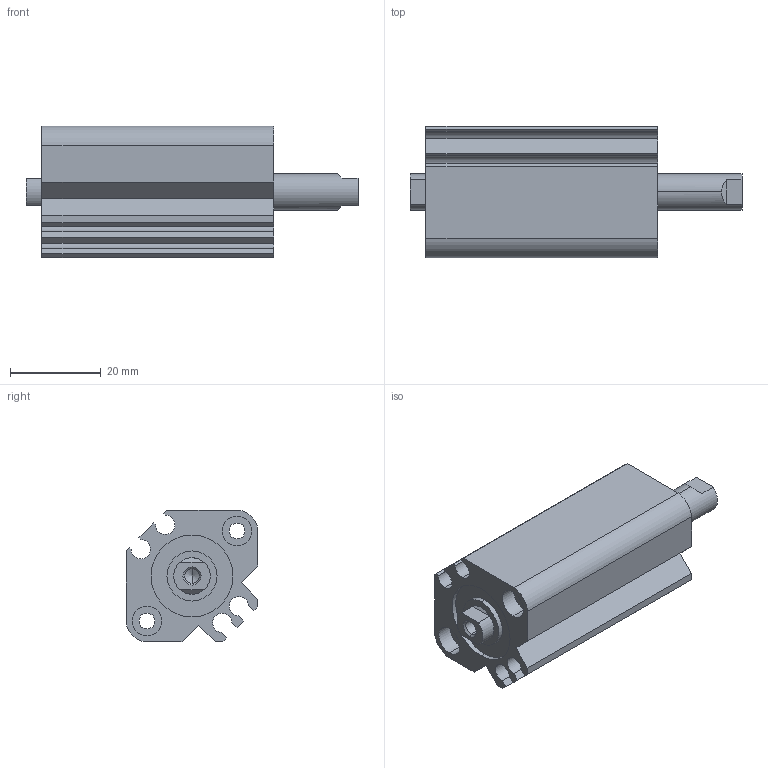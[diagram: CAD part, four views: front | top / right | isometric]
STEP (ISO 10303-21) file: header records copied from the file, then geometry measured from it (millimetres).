
FILE_DESCRIPTION (( 'STEP AP203' ), '1' );
FILE_NAME ('CCMB16-15F-P.STEP', '2020-08-05T11:03:21', ( '' ), ( '' ), 'SwSTEP 2.0', 'SolidWorks 2019', '' );
FILE_SCHEMA (( 'CONFIG_CONTROL_DESIGN' ));
Length unit declared in the file: millimetre
Products named in the file (1): CCMB16-15F-P
Bounding box: 73 x 29 x 29 mm (x, y, z)
Volume: 30926.3 mm3; surface area: 15294.5 mm2
Topology: 2 solids, 2 shells, 114 faces, 276 edges, 178 vertices
Faces by surface type: cylinder 52, plane 50, cone 12
Entity records: 3415 total; most frequent: DIRECTION 606, CARTESIAN_POINT 589, ORIENTED_EDGE 544, EDGE_CURVE 272, AXIS2_PLACEMENT_3D 227, VERTEX_POINT 178, VECTOR 152, LINE 152
